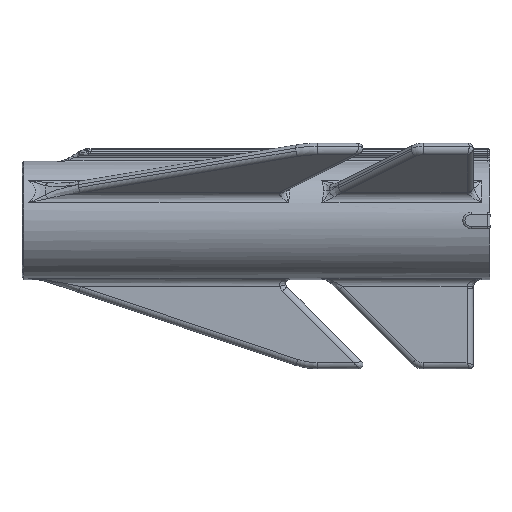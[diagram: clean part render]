
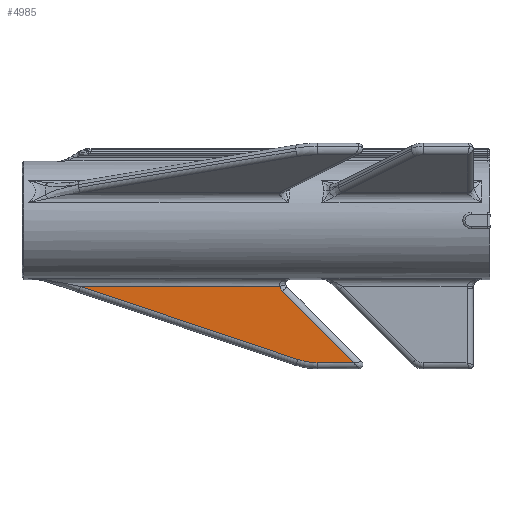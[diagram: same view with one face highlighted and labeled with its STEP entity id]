
A CAD part, left-side view. The second image highlights one B-rep face of the part: STEP entity #4985.
In plain terms, the highlighted planar face has unit normal (-1, 0, 0).
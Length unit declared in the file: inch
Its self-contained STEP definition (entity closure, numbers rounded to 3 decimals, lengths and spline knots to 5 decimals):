
#82 = CARTESIAN_POINT ( 'NONE',  ( -0.09375, -3.25, -2.125 ) ) ;
#613 = ORIENTED_EDGE ( 'NONE', *, *, #5605, .T. ) ;
#909 = VECTOR ( 'NONE', #7165, 39.37008 ) ;
#986 = VERTEX_POINT ( 'NONE', #1010 ) ;
#1010 = CARTESIAN_POINT ( 'NONE',  ( -0.09375, -1.46209, -2.125 ) ) ;
#1148 = EDGE_CURVE ( 'NONE', #5798, #11171, #11364, .T. ) ;
#1302 = LINE ( 'NONE', #82, #1761 ) ;
#1520 = DIRECTION ( 'NONE',  ( 0., 0., 1. ) ) ;
#1681 = ORIENTED_EDGE ( 'NONE', *, *, #2843, .T. ) ;
#1761 = VECTOR ( 'NONE', #5002, 39.37008 ) ;
#2320 = CARTESIAN_POINT ( 'NONE',  ( -0.09375, 2.62511, -0.98603 ) ) ;
#2843 = EDGE_CURVE ( 'NONE', #11171, #6672, #11944, .T. ) ;
#2848 = CARTESIAN_POINT ( 'NONE',  ( -0.09375, -3.25, -0.98603 ) ) ;
#2969 = CARTESIAN_POINT ( 'NONE',  ( -0.09375, -0.50556, -0.9475 ) ) ;
#3015 = CARTESIAN_POINT ( 'NONE',  ( -0.09375, -2.60484, -2.74296 ) ) ;
#3019 = CIRCLE ( 'NONE', #8070, 0.15625 ) ;
#3468 = CARTESIAN_POINT ( 'NONE',  ( -0.09375, -0.91348, -1.21875 ) ) ;
#3519 = CARTESIAN_POINT ( 'NONE',  ( -0.09375, -0.62489, -2.07782 ) ) ;
#3850 = DIRECTION ( 'NONE',  ( 0., 0., 1. ) ) ;
#4085 = PLANE ( 'NONE',  #6211 ) ;
#4500 = DIRECTION ( 'NONE',  ( -1., 0., 0. ) ) ;
#4795 = DIRECTION ( 'NONE',  ( 0., 0., 1. ) ) ;
#4985 = ADVANCED_FACE ( 'NONE', ( #7611 ), #4085, .T. ) ;
#5002 = DIRECTION ( 'NONE',  ( 0., -1., 0. ) ) ;
#5328 = CARTESIAN_POINT ( 'NONE',  ( -0.09375, -0.39507, -1.05799 ) ) ;
#5462 = LINE ( 'NONE', #11808, #909 ) ;
#5567 = ORIENTED_EDGE ( 'NONE', *, *, #9252, .T. ) ;
#5591 = EDGE_LOOP ( 'NONE', ( #5567, #9189, #5661, #8218, #1681, #613 ) ) ;
#5605 = EDGE_CURVE ( 'NONE', #6672, #986, #1302, .T. ) ;
#5661 = ORIENTED_EDGE ( 'NONE', *, *, #6259, .T. ) ;
#5690 = CARTESIAN_POINT ( 'NONE',  ( -0.09375, -0.35413, -0.98603 ) ) ;
#5798 = VERTEX_POINT ( 'NONE', #2320 ) ;
#5831 = DIRECTION ( 'NONE',  ( -1., 0., 0. ) ) ;
#6211 = AXIS2_PLACEMENT_3D ( 'NONE', #7550, #5831, #3850 ) ;
#6259 = EDGE_CURVE ( 'NONE', #7667, #5798, #6726, .T. ) ;
#6422 = VECTOR ( 'NONE', #8393, 39.37008 ) ;
#6589 = DIRECTION ( 'NONE',  ( 0., -0.948, -0.318 ) ) ;
#6672 = VERTEX_POINT ( 'NONE', #7560 ) ;
#6726 = LINE ( 'NONE', #2848, #6422 ) ;
#7165 = DIRECTION ( 'NONE',  ( 0., 0.707, 0.707 ) ) ;
#7346 = EDGE_CURVE ( 'NONE', #10415, #7667, #3019, .T. ) ;
#7466 = AXIS2_PLACEMENT_3D ( 'NONE', #3468, #4500, #1520 ) ;
#7550 = CARTESIAN_POINT ( 'NONE',  ( -0.09375, -3.25, -0.8225 ) ) ;
#7560 = CARTESIAN_POINT ( 'NONE',  ( -0.09375, -0.91348, -2.125 ) ) ;
#7611 = FACE_OUTER_BOUND ( 'NONE', #5591, .T. ) ;
#7667 = VERTEX_POINT ( 'NONE', #5690 ) ;
#8070 = AXIS2_PLACEMENT_3D ( 'NONE', #2969, #8395, #4795 ) ;
#8218 = ORIENTED_EDGE ( 'NONE', *, *, #1148, .T. ) ;
#8393 = DIRECTION ( 'NONE',  ( 0., 1., 0. ) ) ;
#8395 = DIRECTION ( 'NONE',  ( 1., 0., 0. ) ) ;
#8617 = VECTOR ( 'NONE', #6589, 39.37008 ) ;
#9189 = ORIENTED_EDGE ( 'NONE', *, *, #7346, .T. ) ;
#9252 = EDGE_CURVE ( 'NONE', #986, #10415, #5462, .T. ) ;
#10415 = VERTEX_POINT ( 'NONE', #5328 ) ;
#11171 = VERTEX_POINT ( 'NONE', #3519 ) ;
#11364 = LINE ( 'NONE', #3015, #8617 ) ;
#11808 = CARTESIAN_POINT ( 'NONE',  ( -0.09375, -0.39042, -1.05334 ) ) ;
#11944 = CIRCLE ( 'NONE', #7466, 0.90625 ) ;
